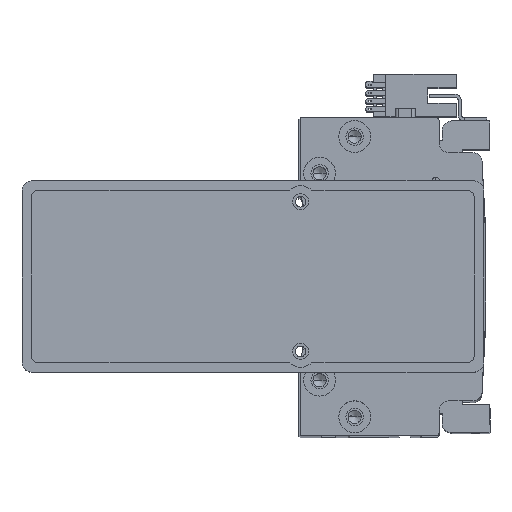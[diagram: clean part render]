
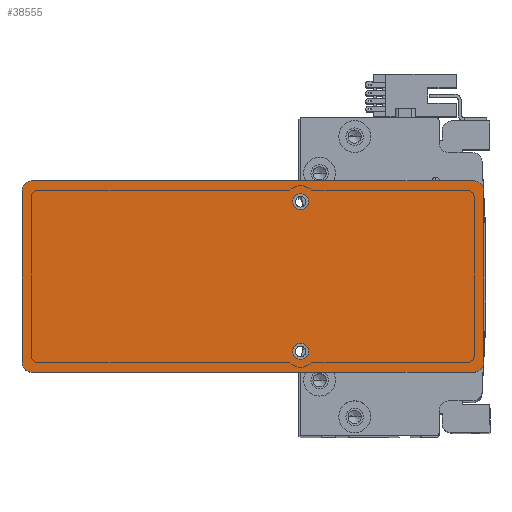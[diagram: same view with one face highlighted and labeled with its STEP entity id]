
A CAD part, top view. The second image highlights one B-rep face of the part: STEP entity #38555.
In plain terms, the highlighted planar face has unit normal (0, 0, 1) as drawn and (0, 0, -1) by its records, which use the part's own axes.
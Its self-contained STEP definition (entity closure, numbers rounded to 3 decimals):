
#310 = AXIS2_PLACEMENT_3D ( 'NONE', #22403, #3375, #25622 ) ;
#382 = ORIENTED_EDGE ( 'NONE', *, *, #5367, .T. ) ;
#747 = CARTESIAN_POINT ( 'NONE',  ( -72.5, -30., 0. ) ) ;
#976 = ORIENTED_EDGE ( 'NONE', *, *, #6882, .F. ) ;
#2378 = CIRCLE ( 'NONE', #24684, 3. ) ;
#3375 = DIRECTION ( 'NONE',  ( 0., 0., -1. ) ) ;
#3507 = EDGE_CURVE ( 'NONE', #13631, #35394, #19605, .T. ) ;
#3523 = VERTEX_POINT ( 'NONE', #35222 ) ;
#3538 = LINE ( 'NONE', #7454, #11018 ) ;
#3887 = DIRECTION ( 'NONE',  ( 0., -1., 0. ) ) ;
#3984 = VECTOR ( 'NONE', #3887, 1000. ) ;
#4014 = LINE ( 'NONE', #28893, #28376 ) ;
#4386 = VERTEX_POINT ( 'NONE', #21645 ) ;
#4505 = AXIS2_PLACEMENT_3D ( 'NONE', #11377, #33640, #14544 ) ;
#5367 = EDGE_CURVE ( 'NONE', #34012, #4386, #31195, .T. ) ;
#5523 = VERTEX_POINT ( 'NONE', #7888 ) ;
#5726 = EDGE_CURVE ( 'NONE', #5523, #9086, #29124, .T. ) ;
#6882 = EDGE_CURVE ( 'NONE', #35394, #13631, #33022, .T. ) ;
#7051 = DIRECTION ( 'NONE',  ( 0., 0., -1. ) ) ;
#7169 = ORIENTED_EDGE ( 'NONE', *, *, #27382, .T. ) ;
#7337 = CARTESIAN_POINT ( 'NONE',  ( 12.5, -23.5, 0. ) ) ;
#7454 = CARTESIAN_POINT ( 'NONE',  ( 72.5, 30., 0. ) ) ;
#7646 = CARTESIAN_POINT ( 'NONE',  ( 72.5, -30., 0. ) ) ;
#7888 = CARTESIAN_POINT ( 'NONE',  ( 69.5, 30., 0. ) ) ;
#8699 = CARTESIAN_POINT ( 'NONE',  ( 15., 23.5, 0. ) ) ;
#8933 = FACE_BOUND ( 'NONE', #28549, .T. ) ;
#9086 = VERTEX_POINT ( 'NONE', #34983 ) ;
#9390 = DIRECTION ( 'NONE',  ( 0., 0., -1. ) ) ;
#9406 = DIRECTION ( 'NONE',  ( 0., 0., -1. ) ) ;
#9895 = DIRECTION ( 'NONE',  ( 0., 1., 0. ) ) ;
#10474 = EDGE_CURVE ( 'NONE', #34012, #26147, #30940, .T. ) ;
#10686 = CARTESIAN_POINT ( 'NONE',  ( -72.5, 27., 0. ) ) ;
#10852 = DIRECTION ( 'NONE',  ( 0., 0., -1. ) ) ;
#11018 = VECTOR ( 'NONE', #29667, 1000. ) ;
#11187 = ORIENTED_EDGE ( 'NONE', *, *, #30262, .F. ) ;
#11227 = ORIENTED_EDGE ( 'NONE', *, *, #19732, .F. ) ;
#11377 = CARTESIAN_POINT ( 'NONE',  ( 15., 23.5, 0. ) ) ;
#11649 = ORIENTED_EDGE ( 'NONE', *, *, #23081, .F. ) ;
#11878 = DIRECTION ( 'NONE',  ( -1., 0., 0. ) ) ;
#12293 = ORIENTED_EDGE ( 'NONE', *, *, #5726, .T. ) ;
#13631 = VERTEX_POINT ( 'NONE', #7337 ) ;
#14105 = AXIS2_PLACEMENT_3D ( 'NONE', #8699, #30893, #11878 ) ;
#14267 = CARTESIAN_POINT ( 'NONE',  ( 0., 0., 0. ) ) ;
#14358 = EDGE_CURVE ( 'NONE', #3523, #9086, #4014, .T. ) ;
#14544 = DIRECTION ( 'NONE',  ( -1., 0., 0. ) ) ;
#16391 = FACE_OUTER_BOUND ( 'NONE', #27471, .T. ) ;
#17499 = DIRECTION ( 'NONE',  ( 1., 0., 0. ) ) ;
#18312 = DIRECTION ( 'NONE',  ( 0., 0., -1. ) ) ;
#18876 = CARTESIAN_POINT ( 'NONE',  ( -69.5, -30., 0. ) ) ;
#18990 = EDGE_CURVE ( 'NONE', #5523, #22498, #3538, .T. ) ;
#19605 = CIRCLE ( 'NONE', #310, 2.5 ) ;
#19732 = EDGE_CURVE ( 'NONE', #23426, #37730, #22807, .T. ) ;
#19938 = AXIS2_PLACEMENT_3D ( 'NONE', #14267, #36473, #17499 ) ;
#20436 = CARTESIAN_POINT ( 'NONE',  ( 17.5, -23.5, 0. ) ) ;
#20715 = AXIS2_PLACEMENT_3D ( 'NONE', #37296, #18312, #40528 ) ;
#21581 = CARTESIAN_POINT ( 'NONE',  ( 69.5, -30., 0. ) ) ;
#21645 = CARTESIAN_POINT ( 'NONE',  ( -72.5, -27., 0. ) ) ;
#21931 = ORIENTED_EDGE ( 'NONE', *, *, #10474, .F. ) ;
#22403 = CARTESIAN_POINT ( 'NONE',  ( 15., -23.5, 0. ) ) ;
#22498 = VERTEX_POINT ( 'NONE', #37039 ) ;
#22807 = CIRCLE ( 'NONE', #4505, 2.5 ) ;
#23081 = EDGE_CURVE ( 'NONE', #37730, #23426, #40229, .T. ) ;
#23426 = VERTEX_POINT ( 'NONE', #35993 ) ;
#23621 = DIRECTION ( 'NONE',  ( 1., 0., 0. ) ) ;
#23912 = VERTEX_POINT ( 'NONE', #10686 ) ;
#24684 = AXIS2_PLACEMENT_3D ( 'NONE', #28384, #9406, #31598 ) ;
#25622 = DIRECTION ( 'NONE',  ( -1., 0., 0. ) ) ;
#26098 = CARTESIAN_POINT ( 'NONE',  ( -69.5, -27., 0. ) ) ;
#26147 = VERTEX_POINT ( 'NONE', #21581 ) ;
#26203 = EDGE_CURVE ( 'NONE', #23912, #22498, #2378, .T. ) ;
#27382 = EDGE_CURVE ( 'NONE', #3523, #26147, #29254, .T. ) ;
#27471 = EDGE_LOOP ( 'NONE', ( #36320, #7169, #21931, #382, #11187, #34603, #38812, #12293 ) ) ;
#27780 = EDGE_LOOP ( 'NONE', ( #33951, #976 ) ) ;
#27945 = AXIS2_PLACEMENT_3D ( 'NONE', #28362, #9390, #31573 ) ;
#28362 = CARTESIAN_POINT ( 'NONE',  ( 15., -23.5, 0. ) ) ;
#28376 = VECTOR ( 'NONE', #9895, 1000. ) ;
#28384 = CARTESIAN_POINT ( 'NONE',  ( -69.5, 27., 0. ) ) ;
#28549 = EDGE_LOOP ( 'NONE', ( #11227, #11649 ) ) ;
#28893 = CARTESIAN_POINT ( 'NONE',  ( 72.5, -30., 0. ) ) ;
#29124 = CIRCLE ( 'NONE', #20715, 3. ) ;
#29254 = CIRCLE ( 'NONE', #29746, 3. ) ;
#29275 = DIRECTION ( 'NONE',  ( 1., 0., 0. ) ) ;
#29667 = DIRECTION ( 'NONE',  ( -1., 0., 0. ) ) ;
#29746 = AXIS2_PLACEMENT_3D ( 'NONE', #29862, #10852, #33123 ) ;
#29862 = CARTESIAN_POINT ( 'NONE',  ( 69.5, -27., 0. ) ) ;
#29929 = VECTOR ( 'NONE', #23621, 1000. ) ;
#30262 = EDGE_CURVE ( 'NONE', #23912, #4386, #37803, .T. ) ;
#30893 = DIRECTION ( 'NONE',  ( 0., 0., -1. ) ) ;
#30940 = LINE ( 'NONE', #7646, #29929 ) ;
#31195 = CIRCLE ( 'NONE', #35088, 3. ) ;
#31573 = DIRECTION ( 'NONE',  ( -1., 0., 0. ) ) ;
#31598 = DIRECTION ( 'NONE',  ( 1., 0., 0. ) ) ;
#32294 = FACE_BOUND ( 'NONE', #27780, .T. ) ;
#32782 = CARTESIAN_POINT ( 'NONE',  ( 17.5, 23.5, 0. ) ) ;
#33022 = CIRCLE ( 'NONE', #27945, 2.5 ) ;
#33123 = DIRECTION ( 'NONE',  ( 1., 0., 0. ) ) ;
#33232 = PLANE ( 'NONE',  #19938 ) ;
#33640 = DIRECTION ( 'NONE',  ( 0., 0., -1. ) ) ;
#33951 = ORIENTED_EDGE ( 'NONE', *, *, #3507, .F. ) ;
#34012 = VERTEX_POINT ( 'NONE', #18876 ) ;
#34603 = ORIENTED_EDGE ( 'NONE', *, *, #26203, .T. ) ;
#34983 = CARTESIAN_POINT ( 'NONE',  ( 72.5, 27., 0. ) ) ;
#35088 = AXIS2_PLACEMENT_3D ( 'NONE', #26098, #7051, #29275 ) ;
#35222 = CARTESIAN_POINT ( 'NONE',  ( 72.5, -27., 0. ) ) ;
#35394 = VERTEX_POINT ( 'NONE', #20436 ) ;
#35993 = CARTESIAN_POINT ( 'NONE',  ( 12.5, 23.5, 0. ) ) ;
#36320 = ORIENTED_EDGE ( 'NONE', *, *, #14358, .F. ) ;
#36473 = DIRECTION ( 'NONE',  ( 0., 0., 1. ) ) ;
#37039 = CARTESIAN_POINT ( 'NONE',  ( -69.5, 30., 0. ) ) ;
#37296 = CARTESIAN_POINT ( 'NONE',  ( 69.5, 27., 0. ) ) ;
#37730 = VERTEX_POINT ( 'NONE', #32782 ) ;
#37803 = LINE ( 'NONE', #747, #3984 ) ;
#38555 = ADVANCED_FACE ( 'NONE', ( #8933, #32294, #16391 ), #33232, .F. ) ;
#38812 = ORIENTED_EDGE ( 'NONE', *, *, #18990, .F. ) ;
#40229 = CIRCLE ( 'NONE', #14105, 2.5 ) ;
#40528 = DIRECTION ( 'NONE',  ( 1., 0., 0. ) ) ;
